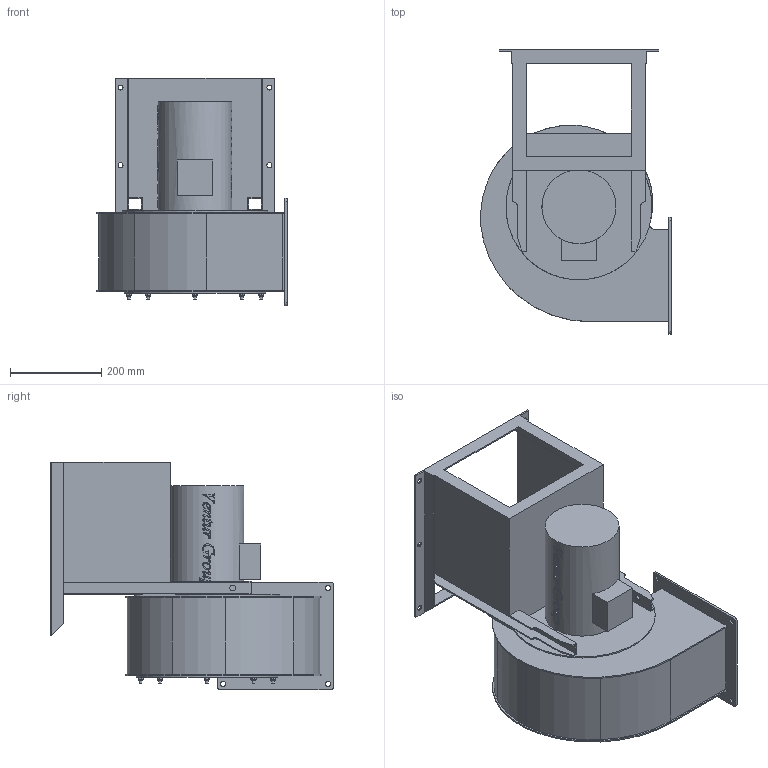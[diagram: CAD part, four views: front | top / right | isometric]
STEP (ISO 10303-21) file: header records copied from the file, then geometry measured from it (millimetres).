
FILE_DESCRIPTION(/* description */ (''),/* implementation_level */ '2;1');
FILE_NAME(/* name */ 'E:\Mariusz\Modele uproszczone\GFB\GFB_4_250_114 LG90 435030220\GFB_4_250_114 LG90 435030220\GFB_4_250_114 LG90 435030220.stp',/* time_stamp */ '2019-01-16T14:24:33+01:00',/* author */ ('M.Janczarek'),/* organization */ (''),/* preprocessor_version */ 'ST-DEVELOPER v16.13',/* originating_system */ 'Autodesk Inventor 2018',/* authorisation */ '');
FILE_SCHEMA (('AUTOMOTIVE_DESIGN { 1 0 10303 214 3 1 1 }'));
Products named in the file (1): GFB_4_250_114 LG90 435030220
Bounding box: 416.98 x 621.19 x 497.5 mm (x, y, z)
Volume: 29190210.8 mm3; surface area: 1541267.8 mm2
Topology: 1 solids, 1 shells, 2611 faces, 7657 edges, 5055 vertices
Faces by surface type: plane 2069, bspline 387, cylinder 129, cone 25, torus 1
Full cylindrical faces by diameter (mm): 6 x16, 7.1 x8, 8.9 x8, 11 x10, 13 x2, 203 x1, 310 x1
Entity records: 95194 total; most frequent: CARTESIAN_POINT 24765, ORIENTED_EDGE 15086, DIRECTION 11700, EDGE_CURVE 7543, LINE 6312, VECTOR 6312, VERTEX_POINT 5013, EDGE_LOOP 3610
